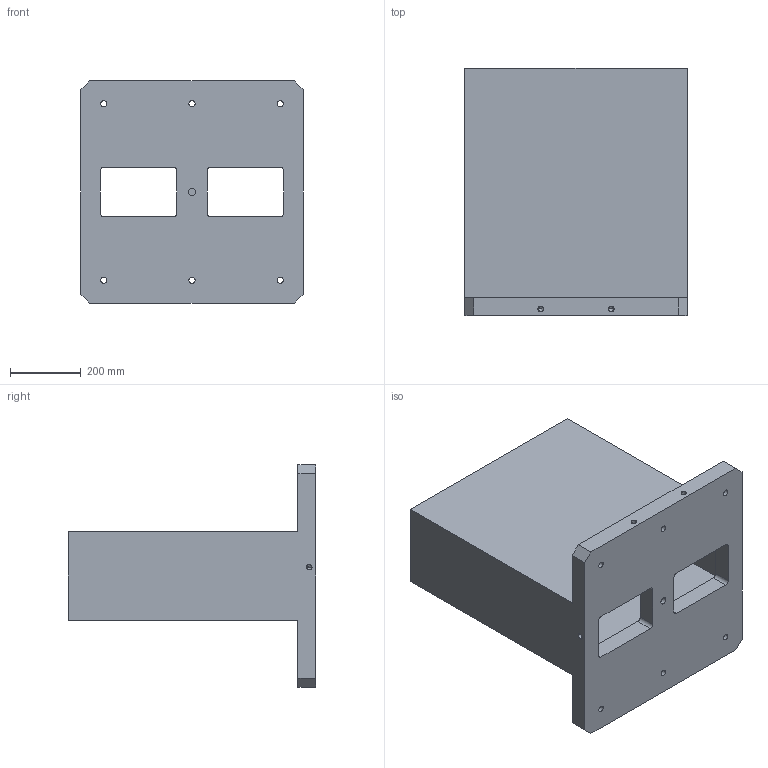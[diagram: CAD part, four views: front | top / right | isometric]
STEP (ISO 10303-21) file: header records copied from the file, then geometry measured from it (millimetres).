
FILE_DESCRIPTION((''),'2;1');
FILE_NAME('FG_WH_TOMB_RCPLNNP005','2026-05-20T10:48:49',('Admin'),(''),'CREO PARAMETRIC BY PTC INC, 2025010','CREO PARAMETRIC BY PTC INC, 2025010','');
FILE_SCHEMA(('CONFIG_CONTROL_DESIGN'));
Length unit declared in the file: millimetre
Products named in the file (1): FG_WH_TOMB_RCPLNNP005
Bounding box: 630 x 700 x 630 mm (x, y, z)
Volume: 65067913.8 mm3; surface area: 3053126.4 mm2
Topology: 1 solids, 5 shells, 132 faces, 350 edges, 231 vertices
Faces by surface type: cylinder 66, plane 60, cone 6
Entity records: 4187 total; most frequent: DIRECTION 750, CARTESIAN_POINT 708, ORIENTED_EDGE 672, EDGE_CURVE 344, AXIS2_PLACEMENT_3D 273, VERTEX_POINT 231, VECTOR 204, LINE 204
